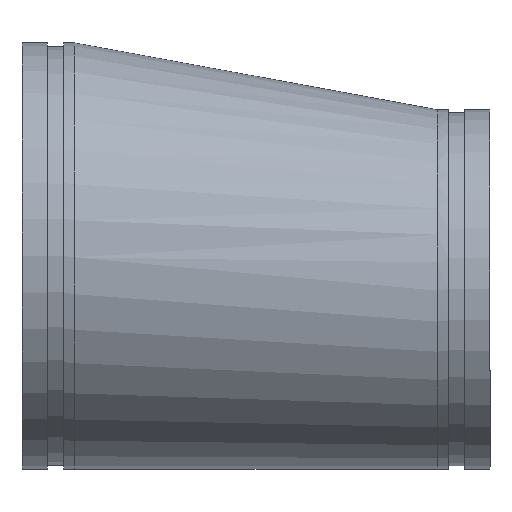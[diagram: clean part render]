
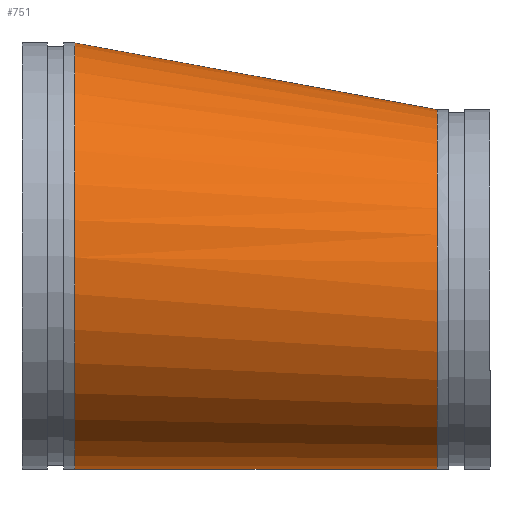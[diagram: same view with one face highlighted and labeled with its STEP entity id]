
A CAD part, top view. The second image highlights one B-rep face of the part: STEP entity #751.
In plain terms, the highlighted free-form (B-spline) face has degree [1, 2] with [2, 9] control points.
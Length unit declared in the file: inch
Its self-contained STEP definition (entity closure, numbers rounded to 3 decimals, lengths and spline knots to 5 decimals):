
#58=B_SPLINE_CURVE_WITH_KNOTS('',1,(#1409,#1410),.UNSPECIFIED.,.F.,.F.,
(2,2),(-1.71539,-0.00077),.UNSPECIFIED.);
#60=(
BOUNDED_SURFACE()
B_SPLINE_SURFACE(1,2,((#1387,#1388,#1389,#1390,#1391,#1392,#1393,#1394,
#1395),(#1396,#1397,#1398,#1399,#1400,#1401,#1402,#1403,#1404)),
 .UNSPECIFIED.,.F.,.T.,.F.)
B_SPLINE_SURFACE_WITH_KNOTS((2,2),(3,2,2,2,3),(-0.09346,1.79187),
(-3.14159,-1.5708,0.,1.5708,3.14159),
 .UNSPECIFIED.)
GEOMETRIC_REPRESENTATION_ITEM()
RATIONAL_B_SPLINE_SURFACE(((1.,0.707,1.,0.707,1.,
0.707,1.,0.707,1.),(1.,0.707,1.,0.707,
1.,0.707,1.,0.707,1.)))
REPRESENTATION_ITEM('')
SURFACE()
);
#128=FACE_OUTER_BOUND('',#160,.T.);
#160=EDGE_LOOP('',(#622,#623,#624,#625,#626,#627,#628));
#247=CIRCLE('',#870,5.375);
#248=CIRCLE('',#871,6.375);
#249=CIRCLE('',#872,6.375);
#250=CIRCLE('',#873,5.375);
#251=CIRCLE('',#874,5.375);
#332=VERTEX_POINT('',#1405);
#333=VERTEX_POINT('',#1406);
#334=VERTEX_POINT('',#1408);
#335=VERTEX_POINT('',#1411);
#336=VERTEX_POINT('',#1414);
#436=EDGE_CURVE('',#332,#333,#247,.T.);
#437=EDGE_CURVE('',#333,#334,#58,.T.);
#438=EDGE_CURVE('',#334,#335,#248,.T.);
#439=EDGE_CURVE('',#335,#334,#249,.T.);
#440=EDGE_CURVE('',#333,#336,#250,.T.);
#441=EDGE_CURVE('',#336,#332,#251,.T.);
#622=ORIENTED_EDGE('',*,*,#436,.T.);
#623=ORIENTED_EDGE('',*,*,#437,.T.);
#624=ORIENTED_EDGE('',*,*,#438,.T.);
#625=ORIENTED_EDGE('',*,*,#439,.T.);
#626=ORIENTED_EDGE('',*,*,#437,.F.);
#627=ORIENTED_EDGE('',*,*,#440,.T.);
#628=ORIENTED_EDGE('',*,*,#441,.T.);
#751=ADVANCED_FACE('',(#128),#60,.F.);
#870=AXIS2_PLACEMENT_3D('',#1407,#1104,#1105);
#871=AXIS2_PLACEMENT_3D('',#1412,#1106,#1107);
#872=AXIS2_PLACEMENT_3D('',#1413,#1108,#1109);
#873=AXIS2_PLACEMENT_3D('',#1415,#1110,#1111);
#874=AXIS2_PLACEMENT_3D('',#1416,#1112,#1113);
#1104=DIRECTION('center_axis',(-1.,0.,0.));
#1105=DIRECTION('ref_axis',(0.,-1.,0.));
#1106=DIRECTION('center_axis',(1.,0.,0.));
#1107=DIRECTION('ref_axis',(0.,1.,0.));
#1108=DIRECTION('center_axis',(1.,0.,0.));
#1109=DIRECTION('ref_axis',(0.,1.,0.));
#1110=DIRECTION('center_axis',(-1.,0.,0.));
#1111=DIRECTION('ref_axis',(0.,-1.,0.));
#1112=DIRECTION('center_axis',(-1.,0.,0.));
#1113=DIRECTION('ref_axis',(0.,-1.,0.));
#1387=CARTESIAN_POINT('Ctrl Pts',(0.98427,0.00115,
6.42973));
#1388=CARTESIAN_POINT('Ctrl Pts',(0.40099,-6.375,6.42973));
#1389=CARTESIAN_POINT('Ctrl Pts',(0.40099,-6.375,0.));
#1390=CARTESIAN_POINT('Ctrl Pts',(0.40099,-6.375,-6.42973));
#1391=CARTESIAN_POINT('Ctrl Pts',(0.98427,0.00115,
-6.42973));
#1392=CARTESIAN_POINT('Ctrl Pts',(1.56755,6.3773,-6.42973));
#1393=CARTESIAN_POINT('Ctrl Pts',(1.56755,6.3773,0.));
#1394=CARTESIAN_POINT('Ctrl Pts',(1.56755,6.3773,6.42973));
#1395=CARTESIAN_POINT('Ctrl Pts',(0.98427,0.00115,
6.42973));
#1396=CARTESIAN_POINT('Ctrl Pts',(12.90354,-1.08921,5.33021));
#1397=CARTESIAN_POINT('Ctrl Pts',(12.42,-6.375,5.33021));
#1398=CARTESIAN_POINT('Ctrl Pts',(12.42,-6.375,0.));
#1399=CARTESIAN_POINT('Ctrl Pts',(12.42,-6.375,-5.33021));
#1400=CARTESIAN_POINT('Ctrl Pts',(12.90354,-1.08921,-5.33021));
#1401=CARTESIAN_POINT('Ctrl Pts',(13.38708,4.19657,-5.33021));
#1402=CARTESIAN_POINT('Ctrl Pts',(13.38708,4.19657,0.));
#1403=CARTESIAN_POINT('Ctrl Pts',(13.38708,4.19657,5.33021));
#1404=CARTESIAN_POINT('Ctrl Pts',(12.90354,-1.08921,5.33021));
#1405=CARTESIAN_POINT('',(12.42,-6.375,0.));
#1406=CARTESIAN_POINT('',(12.42,-1.04498,5.37481));
#1407=CARTESIAN_POINT('Origin',(12.42,-1.,0.));
#1408=CARTESIAN_POINT('',(1.58,-0.05335,6.37478));
#1409=CARTESIAN_POINT('Ctrl Pts',(12.42,-1.04498,5.37481));
#1410=CARTESIAN_POINT('Ctrl Pts',(1.58,-0.05335,6.37478));
#1411=CARTESIAN_POINT('',(1.58,-6.375,0.));
#1412=CARTESIAN_POINT('Origin',(1.58,0.,0.));
#1413=CARTESIAN_POINT('Origin',(1.58,0.,0.));
#1414=CARTESIAN_POINT('',(12.42,4.375,0.));
#1415=CARTESIAN_POINT('Origin',(12.42,-1.,0.));
#1416=CARTESIAN_POINT('Origin',(12.42,-1.,0.));
